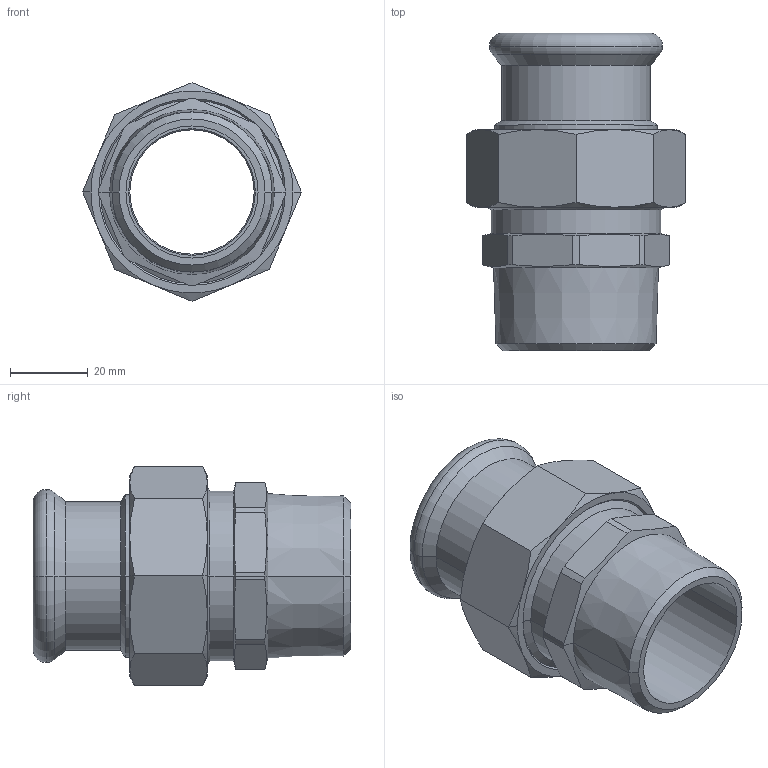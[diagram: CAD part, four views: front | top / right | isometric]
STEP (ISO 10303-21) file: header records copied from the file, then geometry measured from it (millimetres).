
FILE_DESCRIPTION(('CoCreate Modeling STEP Export'),'2;1');
FILE_NAME('C1435 35xR1 1-4.stp','2014-11-12T16:32:29',(''),(''),'CoCreate Modeling STEP processor for AP214 (Solid Model)','CoCreate Modeling 17.00A 17-Jun-2010 (C) Parametric Technology GmbH','');
FILE_SCHEMA(('AUTOMOTIVE_DESIGN { 1 0 10303 214 1 1 1 1 }'));
Length unit declared in the file: millimetre
Products named in the file (2): C1435_35xR1_1-4
Assembly tree (1 placements, depth 2):
  C1435_35xR1_1-4
    C1435_35xR1_1-4
Bounding box: 56.28 x 81.8 x 56.28 mm (x, y, z)
Volume: 51727.8 mm3; surface area: 26712.3 mm2
Topology: 1 solids, 1 shells, 109 faces, 240 edges, 138 vertices
Faces by surface type: cone 48, cylinder 30, plane 23, torus 8
Entity records: 4452 total; most frequent: CARTESIAN_POINT 2400, ORIENTED_EDGE 480, DIRECTION 318, EDGE_CURVE 240, VERTEX_POINT 138, AXIS2_PLACEMENT_3D 120, EDGE_LOOP 116, FACE_OUTER_BOUND 109
